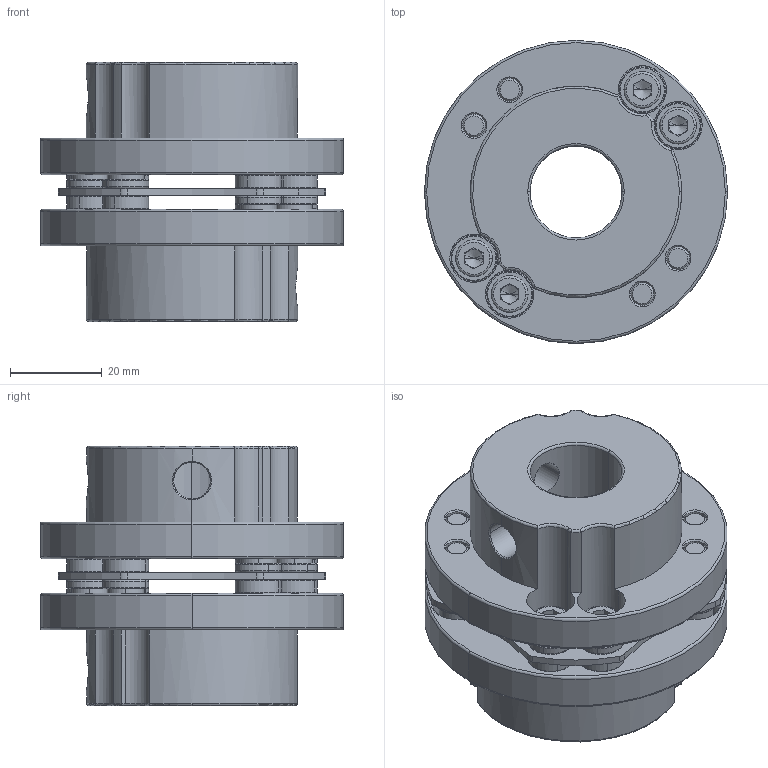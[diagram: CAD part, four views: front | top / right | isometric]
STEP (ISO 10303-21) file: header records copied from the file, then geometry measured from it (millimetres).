
FILE_DESCRIPTION (( 'STEP AP214' ), '1' );
FILE_NAME ('SHDS-66.STEP', '2009-05-22T01:06:41', ( '歜煽繹' ), ( '' ), 'SwSTEP 2.0', 'SolidWorks 2007', '' );
FILE_SCHEMA (( 'AUTOMOTIVE_DESIGN' ));
Length unit declared in the file: millimetre
Products named in the file (8): sus-plate_ル遽; SET-ASM_ル遽; 辑胶魄 促弗 墨敲傅 绢祭锭荤侩_钎霖; M5x14; collar-1_ル遽; collar-2_ル遽; sdw-set_head_ル遽; SHDS-66
Assembly tree (29 placements, depth 4):
  SHDS-66
    sdw-set_head_ル遽
    SET-ASM_ル遽
      M5x14  x8
      辑胶魄 促弗 墨敲傅 绢祭锭荤侩_钎霖
        collar-2_ル遽  x8
        collar-1_ル遽  x8
        sus-plate_ル遽
      sdw-set_head_ル遽
Bounding box: 66 x 66 x 56.5 mm (x, y, z)
Volume: 92112.7 mm3; surface area: 38175.4 mm2
Topology: 27 solids, 27 shells, 673 faces, 1505 edges, 880 vertices
Faces by surface type: torus 208, cylinder 205, plane 168, cone 84, bspline 8
Entity records: 6195 total; most frequent: CARTESIAN_POINT 1446, DIRECTION 1074, ORIENTED_EDGE 862, AXIS2_PLACEMENT_3D 468, EDGE_CURVE 431, CIRCLE 263, VERTEX_POINT 262, EDGE_LOOP 215
